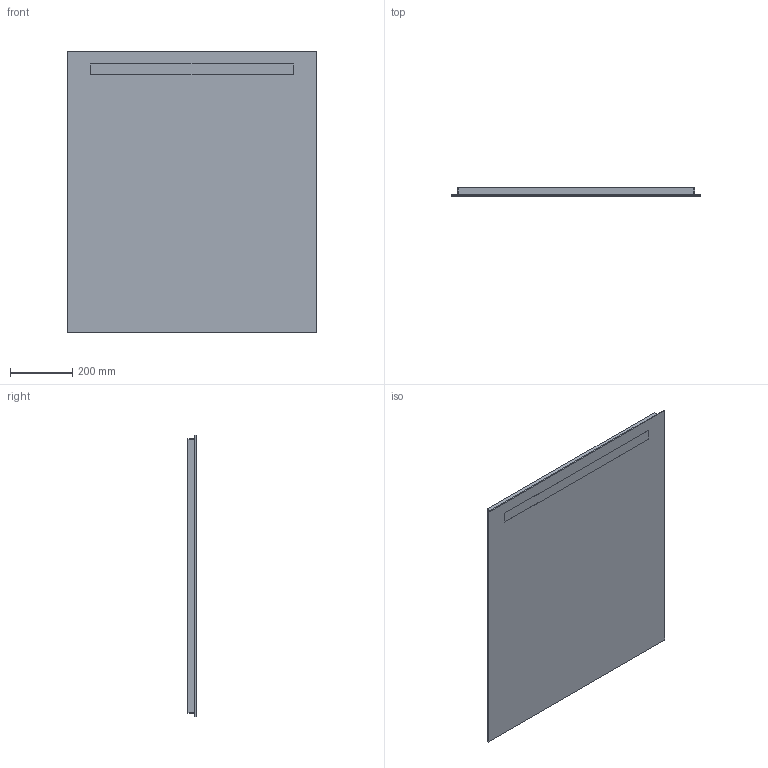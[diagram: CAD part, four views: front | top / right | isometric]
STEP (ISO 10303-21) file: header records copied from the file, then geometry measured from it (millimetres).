
FILE_DESCRIPTION(/* description */ (''),/* implementation_level */ '2;1');
FILE_NAME(/* name */ 'C:\Planerdaten\Export PLA\502.813.00.1\stp\502813.stp',/* time_stamp */ '2022-12-02T15:15:54+01:00',/* author */ ('JANAN'),/* organization */ (''),/* preprocessor_version */ 'ST-DEVELOPER v18.1',/* originating_system */ 'Autodesk Inventor 2021',/* authorisation */ '');
FILE_SCHEMA (('AUTOMOTIVE_DESIGN { 1 0 10303 214 3 1 1 }'));
Length unit declared in the file: millimetre
Products named in the file (1): tmpE07E.tmp
Bounding box: 800 x 26 x 900 mm (x, y, z)
Volume: 17589144.4 mm3; surface area: 2864373.5 mm2
Topology: 2 solids, 2 shells, 29 faces, 68 edges, 48 vertices
Faces by surface type: plane 21, cylinder 8
Full cylindrical faces by diameter (mm): 8 x4
Entity records: 937 total; most frequent: DIRECTION 152, CARTESIAN_POINT 146, ORIENTED_EDGE 136, EDGE_CURVE 68, AXIS2_PLACEMENT_3D 54, VERTEX_POINT 48, LINE 44, VECTOR 44
